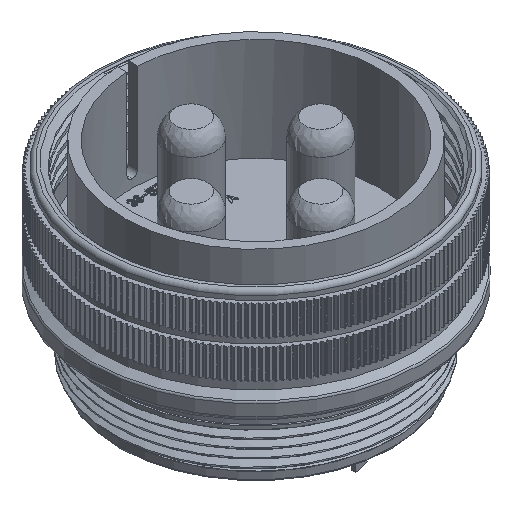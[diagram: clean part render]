
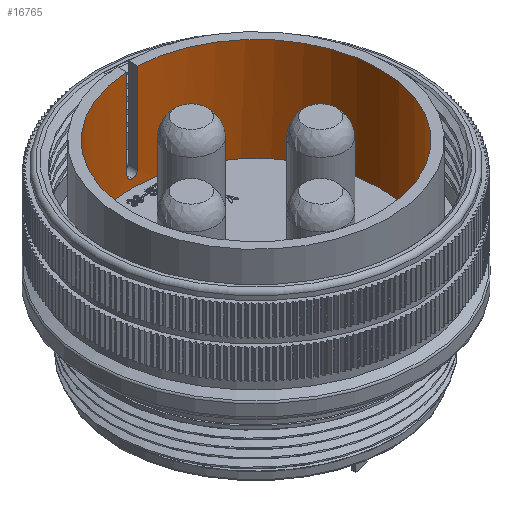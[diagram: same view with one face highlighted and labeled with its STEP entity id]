
A CAD part, isometric view. The second image highlights one B-rep face of the part: STEP entity #16765.
In plain terms, the highlighted cylindrical face has radius 23.345 mm (diameter 46.69 mm), a full revolution.
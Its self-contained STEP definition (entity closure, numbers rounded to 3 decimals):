
#256 = CARTESIAN_POINT ( 'NONE',  ( -0.999, 23.324, 0. ) ) ;
#1783 = DIRECTION ( 'NONE',  ( 0., 0., 1. ) ) ;
#2098 = CARTESIAN_POINT ( 'NONE',  ( 0.999, 23.324, -17.042 ) ) ;
#2238 = CARTESIAN_POINT ( 'NONE',  ( -0.999, 23.324, -20.963 ) ) ;
#2603 = VERTEX_POINT ( 'NONE', #37896 ) ;
#4079 = CARTESIAN_POINT ( 'NONE',  ( -0.132, 23.345, -17.91 ) ) ;
#4282 = AXIS2_PLACEMENT_3D ( 'NONE', #26572, #92463, #68831 ) ;
#5112 = CARTESIAN_POINT ( 'NONE',  ( -0.503, 23.34, -17.783 ) ) ;
#9647 = ORIENTED_EDGE ( 'NONE', *, *, #59470, .T. ) ;
#12421 = DIRECTION ( 'NONE',  ( 0., 0., 1. ) ) ;
#16765 = ADVANCED_FACE ( 'NONE', ( #58164, #87199 ), #36714, .F. ) ;
#17061 = DIRECTION ( 'NONE',  ( 1., 0., 0. ) ) ;
#17918 = EDGE_CURVE ( 'NONE', #2603, #2603, #71845, .T. ) ;
#19006 = VECTOR ( 'NONE', #58703, 1000. ) ;
#19831 = CARTESIAN_POINT ( 'NONE',  ( 0.999, 23.324, -16.91 ) ) ;
#20436 = CARTESIAN_POINT ( 'NONE',  ( 0.999, 23.324, 0. ) ) ;
#21783 = VECTOR ( 'NONE', #12421, 1000. ) ;
#23787 = AXIS2_PLACEMENT_3D ( 'NONE', #66494, #42521, #74616 ) ;
#26572 = CARTESIAN_POINT ( 'NONE',  ( 0., 0., 0. ) ) ;
#28464 = CARTESIAN_POINT ( 'NONE',  ( -0.261, 23.344, -17.884 ) ) ;
#30539 = ORIENTED_EDGE ( 'NONE', *, *, #70955, .T. ) ;
#30933 = EDGE_CURVE ( 'NONE', #88972, #45246, #35842, .T. ) ;
#35842 = B_SPLINE_CURVE_WITH_KNOTS ( 'NONE', 3,
 ( #36200, #4079, #28464, #5112, #37603, #93320, #36553, #60870 ),
 .UNSPECIFIED., .F., .F.,
 ( 4, 2, 2, 4 ),
 ( 0., 0., 0.001, 0.002 ),
 .UNSPECIFIED. ) ;
#36200 = CARTESIAN_POINT ( 'NONE',  ( 0., 23.345, -17.91 ) ) ;
#36553 = CARTESIAN_POINT ( 'NONE',  ( -0.999, 23.324, -17.174 ) ) ;
#36714 = CYLINDRICAL_SURFACE ( 'NONE', #100068, 23.345 ) ;
#37603 = CARTESIAN_POINT ( 'NONE',  ( -0.614, 23.337, -17.709 ) ) ;
#37896 = CARTESIAN_POINT ( 'NONE',  ( 23.345, 0., -19.42 ) ) ;
#42521 = DIRECTION ( 'NONE',  ( 0., 0., -1. ) ) ;
#42731 = CARTESIAN_POINT ( 'NONE',  ( 0.264, 23.345, -17.91 ) ) ;
#45246 = VERTEX_POINT ( 'NONE', #54673 ) ;
#46461 = ORIENTED_EDGE ( 'NONE', *, *, #17918, .T. ) ;
#46561 = VERTEX_POINT ( 'NONE', #20436 ) ;
#50157 = CARTESIAN_POINT ( 'NONE',  ( 0., 0., 3.819 ) ) ;
#50836 = CARTESIAN_POINT ( 'NONE',  ( 0., 23.345, -17.91 ) ) ;
#53361 = CARTESIAN_POINT ( 'NONE',  ( 0.999, 23.324, -20.963 ) ) ;
#54283 = CIRCLE ( 'NONE', #4282, 23.345 ) ;
#54352 = B_SPLINE_CURVE_WITH_KNOTS ( 'NONE', 3,
 ( #98788, #2098, #91714, #58586, #91024, #66709, #42731, #50836 ),
 .UNSPECIFIED., .F., .F.,
 ( 4, 2, 2, 4 ),
 ( 0., 0., 0.001, 0.002 ),
 .UNSPECIFIED. ) ;
#54673 = CARTESIAN_POINT ( 'NONE',  ( -0.999, 23.324, -16.91 ) ) ;
#58164 = FACE_OUTER_BOUND ( 'NONE', #76760, .T. ) ;
#58586 = CARTESIAN_POINT ( 'NONE',  ( 0.873, 23.329, -17.413 ) ) ;
#58703 = DIRECTION ( 'NONE',  ( 0., 0., 1. ) ) ;
#59470 = EDGE_CURVE ( 'NONE', #82692, #46561, #54283, .T. ) ;
#60870 = CARTESIAN_POINT ( 'NONE',  ( -0.999, 23.324, -16.91 ) ) ;
#66494 = CARTESIAN_POINT ( 'NONE',  ( 0., 0., -19.42 ) ) ;
#66709 = CARTESIAN_POINT ( 'NONE',  ( 0.522, 23.34, -17.801 ) ) ;
#68831 = DIRECTION ( 'NONE',  ( 1., 0., 0. ) ) ;
#69725 = LINE ( 'NONE', #53361, #21783 ) ;
#70955 = EDGE_CURVE ( 'NONE', #45246, #82692, #98532, .T. ) ;
#71845 = CIRCLE ( 'NONE', #23787, 23.345 ) ;
#74616 = DIRECTION ( 'NONE',  ( 1., 0., 0. ) ) ;
#76760 = EDGE_LOOP ( 'NONE', ( #46461 ) ) ;
#78854 = ORIENTED_EDGE ( 'NONE', *, *, #90871, .F. ) ;
#82692 = VERTEX_POINT ( 'NONE', #256 ) ;
#84626 = ORIENTED_EDGE ( 'NONE', *, *, #30933, .T. ) ;
#87199 = FACE_OUTER_BOUND ( 'NONE', #91494, .T. ) ;
#88972 = VERTEX_POINT ( 'NONE', #95582 ) ;
#90871 = EDGE_CURVE ( 'NONE', #98247, #46561, #69725, .T. ) ;
#91024 = CARTESIAN_POINT ( 'NONE',  ( 0.798, 23.332, -17.524 ) ) ;
#91494 = EDGE_LOOP ( 'NONE', ( #97951, #84626, #30539, #9647, #78854 ) ) ;
#91714 = CARTESIAN_POINT ( 'NONE',  ( 0.973, 23.325, -17.171 ) ) ;
#92233 = EDGE_CURVE ( 'NONE', #98247, #88972, #54352, .T. ) ;
#92463 = DIRECTION ( 'NONE',  ( 0., 0., 1. ) ) ;
#93320 = CARTESIAN_POINT ( 'NONE',  ( -0.89, 23.329, -17.433 ) ) ;
#95582 = CARTESIAN_POINT ( 'NONE',  ( 0., 23.345, -17.91 ) ) ;
#97951 = ORIENTED_EDGE ( 'NONE', *, *, #92233, .T. ) ;
#98247 = VERTEX_POINT ( 'NONE', #19831 ) ;
#98532 = LINE ( 'NONE', #2238, #19006 ) ;
#98788 = CARTESIAN_POINT ( 'NONE',  ( 0.999, 23.324, -16.91 ) ) ;
#100068 = AXIS2_PLACEMENT_3D ( 'NONE', #50157, #1783, #17061 ) ;
